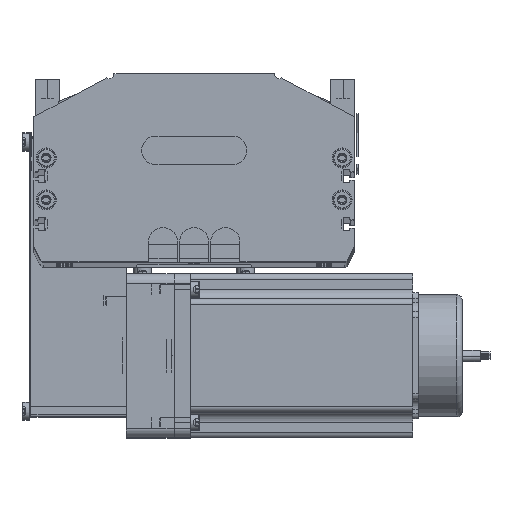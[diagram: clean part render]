
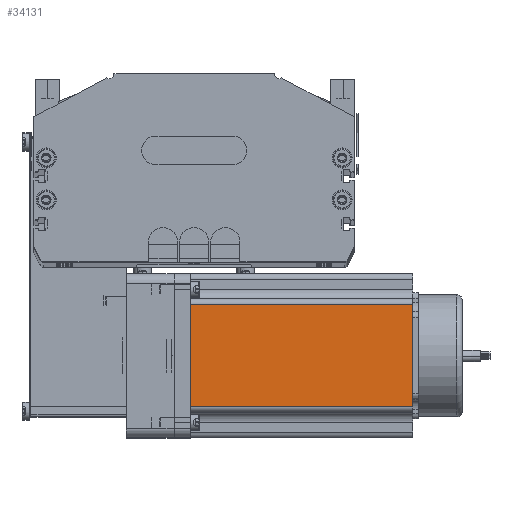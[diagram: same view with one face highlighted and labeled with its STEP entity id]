
A CAD part, top view. The second image highlights one B-rep face of the part: STEP entity #34131.
In plain terms, the highlighted planar face has unit normal (0, 0, 1) as drawn and (0, -1, 0) by its records, which use the part's own axes.
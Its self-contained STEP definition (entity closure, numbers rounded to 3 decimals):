
#33702 = ORIENTED_EDGE ( 'NONE', *, *, #33984, .T. ) ;
#33736 = VERTEX_POINT ( 'NONE', #68282 ) ;
#33738 = EDGE_CURVE ( 'NONE', #33736, #34128, #68681, .T. ) ;
#33984 = EDGE_CURVE ( 'NONE', #33736, #34185, #73979, .T. ) ;
#34067 = EDGE_CURVE ( 'NONE', #34120, #34128, #74790, .T. ) ;
#34071 = EDGE_LOOP ( 'NONE', ( #34121, #34132, #34186, #33702 ) ) ;
#34120 = VERTEX_POINT ( 'NONE', #83391 ) ;
#34121 = ORIENTED_EDGE ( 'NONE', *, *, #34125, .T. ) ;
#34125 = EDGE_CURVE ( 'NONE', #34185, #34120, #83303, .T. ) ;
#34128 = VERTEX_POINT ( 'NONE', #83367 ) ;
#34131 = ADVANCED_FACE ( 'NONE', ( #83263 ), #83371, .F. ) ;
#34132 = ORIENTED_EDGE ( 'NONE', *, *, #34067, .T. ) ;
#34185 = VERTEX_POINT ( 'NONE', #83879 ) ;
#34186 = ORIENTED_EDGE ( 'NONE', *, *, #33738, .F. ) ;
#68282 = CARTESIAN_POINT ( 'NONE',  ( 16.16, 0., 116.5 ) ) ;
#68589 = DIRECTION ( 'NONE',  ( 1., 0., 0. ) ) ;
#68591 = VECTOR ( 'NONE', #68589, 1000. ) ;
#68606 = CARTESIAN_POINT ( 'NONE',  ( 0., 0., 116.5 ) ) ;
#68681 = LINE ( 'NONE', #68606, #68591 ) ;
#73970 = DIRECTION ( 'NONE',  ( 0., 0., -1. ) ) ;
#73972 = VECTOR ( 'NONE', #73970, 1000. ) ;
#73975 = CARTESIAN_POINT ( 'NONE',  ( 16.16, 0., 116.5 ) ) ;
#73979 = LINE ( 'NONE', #73975, #73972 ) ;
#74564 = DIRECTION ( 'NONE',  ( 0., 0., 1. ) ) ;
#74725 = VECTOR ( 'NONE', #74564, 1000. ) ;
#74790 = LINE ( 'NONE', #74801, #74725 ) ;
#74801 = CARTESIAN_POINT ( 'NONE',  ( 69.74, 0., 116.5 ) ) ;
#83263 = FACE_OUTER_BOUND ( 'NONE', #34071, .T. ) ;
#83292 = CARTESIAN_POINT ( 'NONE',  ( 0., 0., 116.5 ) ) ;
#83297 = DIRECTION ( 'NONE',  ( 0., 1., 0. ) ) ;
#83302 = CARTESIAN_POINT ( 'NONE',  ( 0., 0., 0. ) ) ;
#83303 = LINE ( 'NONE', #83302, #83307 ) ;
#83306 = DIRECTION ( 'NONE',  ( 1., 0., 0. ) ) ;
#83307 = VECTOR ( 'NONE', #83306, 1000. ) ;
#83367 = CARTESIAN_POINT ( 'NONE',  ( 69.74, 0., 116.5 ) ) ;
#83368 = AXIS2_PLACEMENT_3D ( 'NONE', #83292, #83297, #83375 ) ;
#83371 = PLANE ( 'NONE',  #83368 ) ;
#83375 = DIRECTION ( 'NONE',  ( 0., 0., 1. ) ) ;
#83391 = CARTESIAN_POINT ( 'NONE',  ( 69.74, 0., 0. ) ) ;
#83879 = CARTESIAN_POINT ( 'NONE',  ( 16.16, 0., 0. ) ) ;
